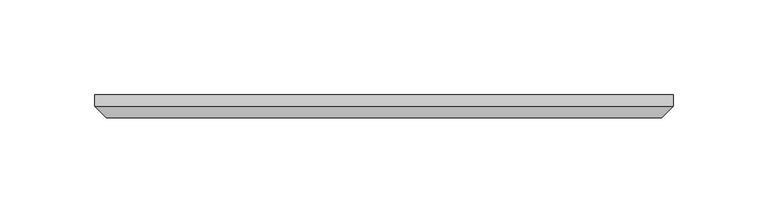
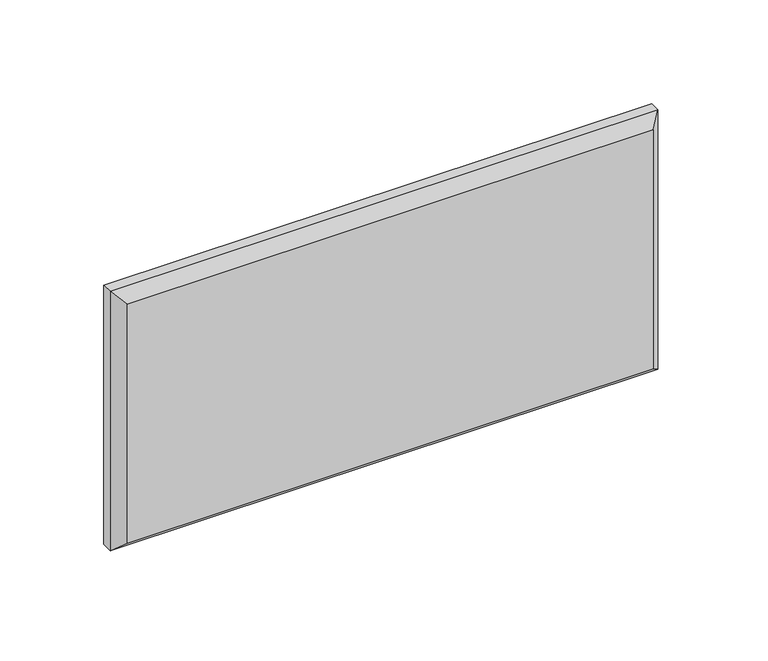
"""IFC4 building model written with IfcOpenShell, lengths in millimetres: proxy geometry, Wall_Wisteria 2.3dm."""

from ifc_helpers import new_model, si_unit, origin, place, context, project, spatial, faceted_brep, source, transform, mapped, element, save


def generic_models_bae5b023(model_context):
    return source(origin(), model_context, "Body", "Brep", [
        faceted_brep([(1219.4088167, -88.0, 1483.2884457), (1524.2088167, -88.0, 1483.2884457), (1524.2088167, -88.0, 1330.8884457), (1219.4088167, -88.0, 1330.8884457), (1219.4088167, -94.0, 1483.2884457), (1219.4088167, -94.0, 1330.8884457), (1524.2088167, -94.0, 1330.8884457), (1524.2088167, -94.0, 1483.2884457), (1518.2088167, -100.0, 1336.8884457), (1518.2088167, -100.0, 1477.2884457), (1225.4088167, -100.0, 1477.2884457), (1225.4088167, -100.0, 1336.8884457)], [[[0, 1, 2, 3]], [[4, 0, 3, 5]], [[5, 3, 2, 6]], [[6, 2, 1, 7]], [[7, 1, 0, 4]], [[8, 9, 10, 11]], [[4, 5, 11, 10]], [[5, 6, 8, 11]], [[6, 7, 9, 8]], [[7, 4, 10, 9]]]),
    ])


if __name__ == "__main__":
    model = new_model("IFC4")
    model_context = context("Model", 3, world=origin())
    ifc_project = project(units=[si_unit("LENGTHUNIT", "METRE", prefix="MILLI")], contexts=[model_context])
    site = spatial("IfcSite", under=ifc_project)
    building = spatial("IfcBuilding", under=site)
    placement = place(None, origin())
    generic_models_shape = generic_models_bae5b023(model_context)
    element("IfcBuildingElementProxy", 1, Name="Wall_Wisteria 2.3dm", ObjectType="Wall_Wisteria 2.3dm", at=placement, inside=building, context=model_context, shape_type="MappedRepresentation", body=[
        mapped(generic_models_shape, transform((0.0, 0.0, 0.0), x_axis=(1.0, 0.0, 0.0), y_axis=(0.0, 1.0, 0.0), z_axis=(0.0, 0.0, 1.0))),
    ])
    save(model, "model.ifc")
